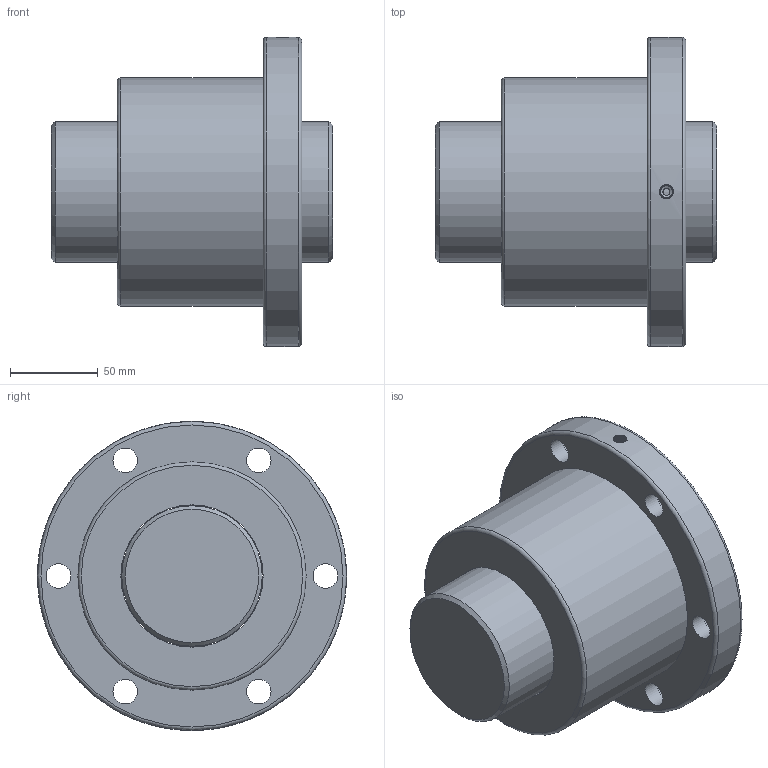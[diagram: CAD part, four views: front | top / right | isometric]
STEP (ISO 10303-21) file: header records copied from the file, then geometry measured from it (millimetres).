
FILE_DESCRIPTION (( 'STEP AP203' ), '1' );
FILE_NAME ('SFV08010-4.8.STEP', '2023-08-16T03:33:55', ( '' ), ( '' ), 'SwSTEP 2.0', 'SolidWorks 2022', '' );
FILE_SCHEMA (( 'CONFIG_CONTROL_DESIGN' ));
Length unit declared in the file: millimetre
Products named in the file (1): SFV08010-4.8
Bounding box: 160 x 176 x 176 mm (x, y, z)
Volume: 1864144.8 mm3; surface area: 165678.9 mm2
Topology: 2 solids, 2 shells, 40 faces, 88 edges, 57 vertices
Faces by surface type: cylinder 20, plane 12, cone 3, torus 3, bspline 2
Full cylindrical faces by diameter (mm): 4 x1, 6.917 x1, 14 x6, 20 x6, 80 x1, 81 x1, 130 x1, 176 x1
Entity records: 2858 total; most frequent: CARTESIAN_POINT 2022, DIRECTION 164, ORIENTED_EDGE 108, EDGE_LOOP 85, AXIS2_PLACEMENT_3D 82, FACE_OUTER_BOUND 61, EDGE_CURVE 54, VERTEX_POINT 47
